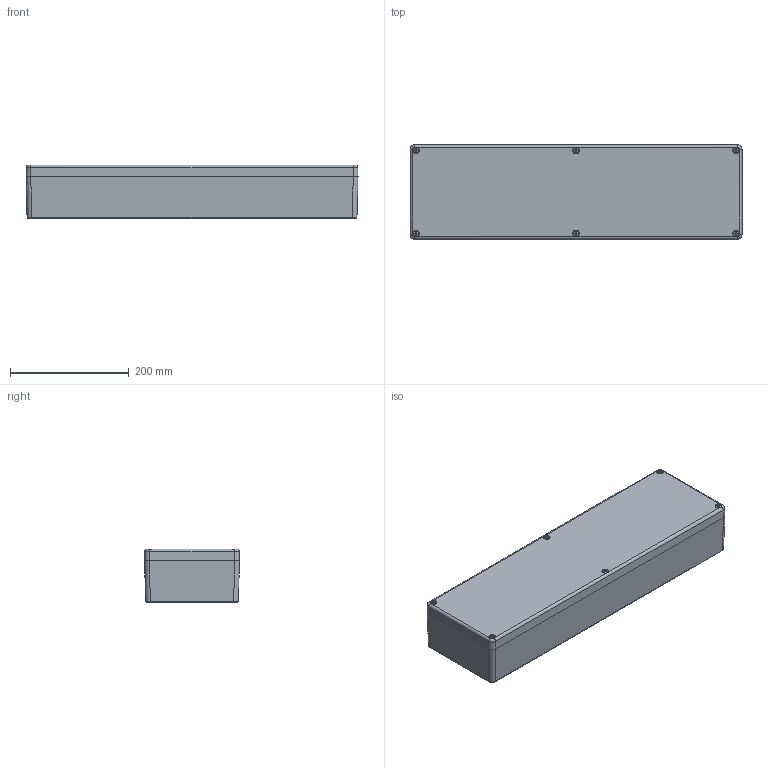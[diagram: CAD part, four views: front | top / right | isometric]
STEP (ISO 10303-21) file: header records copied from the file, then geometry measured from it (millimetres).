
FILE_DESCRIPTION(/* description */ (''),/* implementation_level */ '2;1');
FILE_NAME(/* name */ '4001278.stp',/* time_stamp */ '2020-07-30T08:11:03+02:00',/* author */ (''),/* organization */ (''),/* preprocessor_version */ 'ST-DEVELOPER v16.7',/* originating_system */ 'SIEMENS PLM Software NX 1930',/* authorisation */ '');
FILE_SCHEMA (('AUTOMOTIVE_DESIGN { 1 0 10303 214 3 1 1 1 }'));
Products named in the file (1): RGGM0964FAD19qsn
Bounding box: 560 x 160 x 91 mm (x, y, z)
Volume: 1680015.8 mm3; surface area: 624117.9 mm2
Topology: 8 solids, 8 shells, 1246 faces, 3084 edges, 1892 vertices
Faces by surface type: plane 550, bspline 300, cylinder 290, cone 88, torus 12, sphere 6
Full cylindrical faces by diameter (mm): 4.5 x6, 6 x6, 7.5 x12, 10 x6
Entity records: 54774 total; most frequent: CARTESIAN_POINT 28635, ORIENTED_EDGE 5828, DIRECTION 4226, EDGE_CURVE 2914, VERTEX_POINT 1870, LINE 1556, VECTOR 1556, EDGE_LOOP 1452
